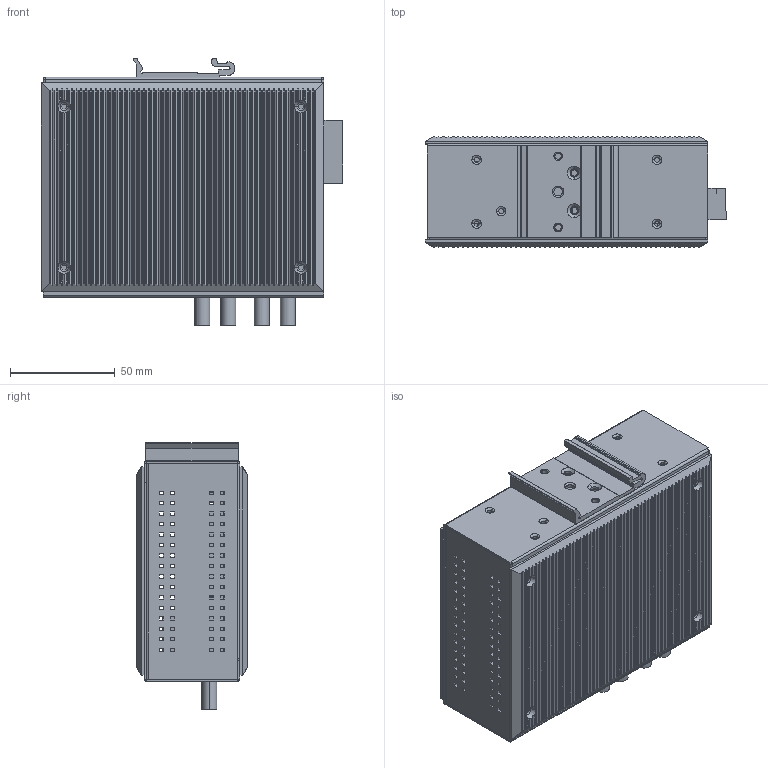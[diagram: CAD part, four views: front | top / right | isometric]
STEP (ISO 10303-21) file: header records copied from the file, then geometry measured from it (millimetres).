
FILE_DESCRIPTION((''),'2;1');
FILE_NAME('EDS-308-MM-ST','2012-03-08T',('Vincent_Huang'),(''),'PRO/ENGINEER BY PARAMETRIC TECHNOLOGY CORPORATION, 2004320','PRO/ENGINEER BY PARAMETRIC TECHNOLOGY CORPORATION, 2004320','');
FILE_SCHEMA(('CONFIG_CONTROL_DESIGN'));
Products named in the file (1): EDS-308-MM-ST
Bounding box: 144.05 x 52.98 x 127.16 mm (x, y, z)
Surface area: 230814.2 mm2 (no closed solid volume)
Topology: 0 solids, 31 shells, 2536 faces, 6611 edges, 4308 vertices
Faces by surface type: plane 1522, cylinder 888, cone 64, torus 42, bspline 20
Entity records: 78685 total; most frequent: CARTESIAN_POINT 15928, ORIENTED_EDGE 13182, DIRECTION 12465, EDGE_CURVE 6601, VECTOR 4395, LINE 4395, VERTEX_POINT 4308, AXIS2_PLACEMENT_3D 4035
